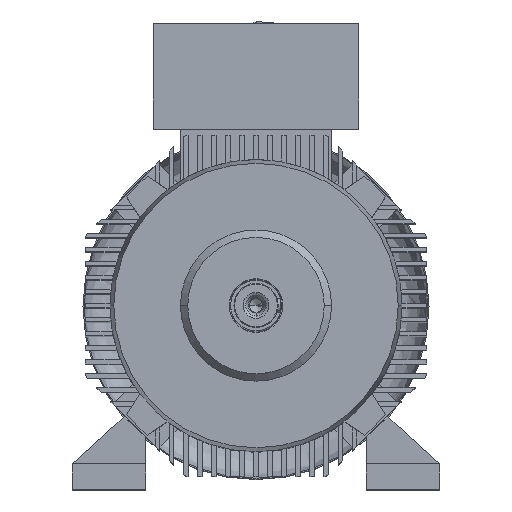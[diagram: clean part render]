
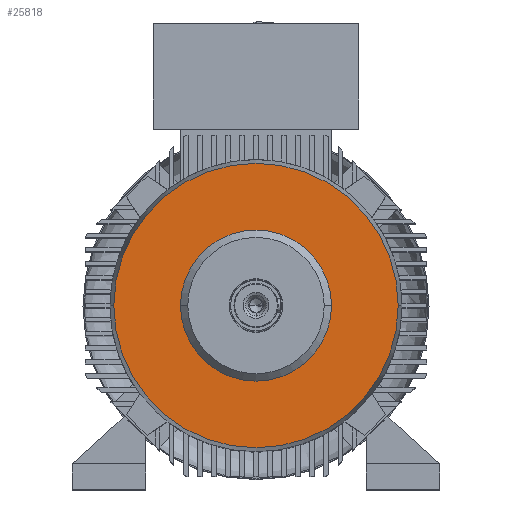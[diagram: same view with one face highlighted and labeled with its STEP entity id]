
A CAD part, top view. The second image highlights one B-rep face of the part: STEP entity #25818.
In plain terms, the highlighted planar face has unit normal (0, 0, 1).
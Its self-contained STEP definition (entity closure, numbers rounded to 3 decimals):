
#127 = DIRECTION ( 'NONE',  ( 1., 0., 0. ) ) ;
#490 = DIRECTION ( 'NONE',  ( 1., 0., 0. ) ) ;
#1287 = CIRCLE ( 'NONE', #19875, 193.484 ) ;
#1985 = DIRECTION ( 'NONE',  ( 0., 0., -1. ) ) ;
#2230 = DIRECTION ( 'NONE',  ( 1., 0., 0. ) ) ;
#2287 = EDGE_LOOP ( 'NONE', ( #7758, #11604 ) ) ;
#2641 = EDGE_CURVE ( 'NONE', #17500, #10358, #21065, .T. ) ;
#2773 = CARTESIAN_POINT ( 'NONE',  ( -102.8, 0., 330.5 ) ) ;
#5925 = CARTESIAN_POINT ( 'NONE',  ( 0., 193.484, 330.5 ) ) ;
#6175 = ORIENTED_EDGE ( 'NONE', *, *, #2641, .T. ) ;
#6286 = DIRECTION ( 'NONE',  ( 0., 0., 1. ) ) ;
#6530 = CARTESIAN_POINT ( 'NONE',  ( 0., 0., 330.5 ) ) ;
#7363 = ORIENTED_EDGE ( 'NONE', *, *, #18317, .T. ) ;
#7758 = ORIENTED_EDGE ( 'NONE', *, *, #14068, .T. ) ;
#8550 = DIRECTION ( 'NONE',  ( 1., 0., 0. ) ) ;
#8702 = CARTESIAN_POINT ( 'NONE',  ( 193.484, 0., 330.5 ) ) ;
#8709 = DIRECTION ( 'NONE',  ( 0., 0., -1. ) ) ;
#10358 = VERTEX_POINT ( 'NONE', #2773 ) ;
#11604 = ORIENTED_EDGE ( 'NONE', *, *, #25696, .T. ) ;
#12146 = PLANE ( 'NONE',  #24772 ) ;
#12402 = AXIS2_PLACEMENT_3D ( 'NONE', #14245, #14163, #2230 ) ;
#13917 = DIRECTION ( 'NONE',  ( 1., 0., 0. ) ) ;
#14068 = EDGE_CURVE ( 'NONE', #21496, #17386, #1287, .T. ) ;
#14163 = DIRECTION ( 'NONE',  ( 0., 0., -1. ) ) ;
#14245 = CARTESIAN_POINT ( 'NONE',  ( 0., 0., 330.5 ) ) ;
#17212 = FACE_BOUND ( 'NONE', #22122, .T. ) ;
#17386 = VERTEX_POINT ( 'NONE', #20341 ) ;
#17500 = VERTEX_POINT ( 'NONE', #20864 ) ;
#18157 = FACE_OUTER_BOUND ( 'NONE', #2287, .T. ) ;
#18317 = EDGE_CURVE ( 'NONE', #10358, #17500, #23110, .T. ) ;
#19875 = AXIS2_PLACEMENT_3D ( 'NONE', #20202, #6286, #490 ) ;
#20202 = CARTESIAN_POINT ( 'NONE',  ( 0., 0., 330.5 ) ) ;
#20268 = AXIS2_PLACEMENT_3D ( 'NONE', #25872, #21514, #13917 ) ;
#20341 = CARTESIAN_POINT ( 'NONE',  ( -193.484, 0., 330.5 ) ) ;
#20864 = CARTESIAN_POINT ( 'NONE',  ( 102.8, 0., 330.5 ) ) ;
#21065 = CIRCLE ( 'NONE', #21805, 102.8 ) ;
#21496 = VERTEX_POINT ( 'NONE', #8702 ) ;
#21514 = DIRECTION ( 'NONE',  ( 0., 0., 1. ) ) ;
#21805 = AXIS2_PLACEMENT_3D ( 'NONE', #6530, #8709, #8550 ) ;
#22122 = EDGE_LOOP ( 'NONE', ( #6175, #7363 ) ) ;
#22865 = CIRCLE ( 'NONE', #20268, 193.484 ) ;
#23110 = CIRCLE ( 'NONE', #12402, 102.8 ) ;
#24772 = AXIS2_PLACEMENT_3D ( 'NONE', #5925, #1985, #127 ) ;
#25696 = EDGE_CURVE ( 'NONE', #17386, #21496, #22865, .T. ) ;
#25818 = ADVANCED_FACE ( 'NONE', ( #17212, #18157 ), #12146, .F. ) ;
#25872 = CARTESIAN_POINT ( 'NONE',  ( 0., 0., 330.5 ) ) ;
